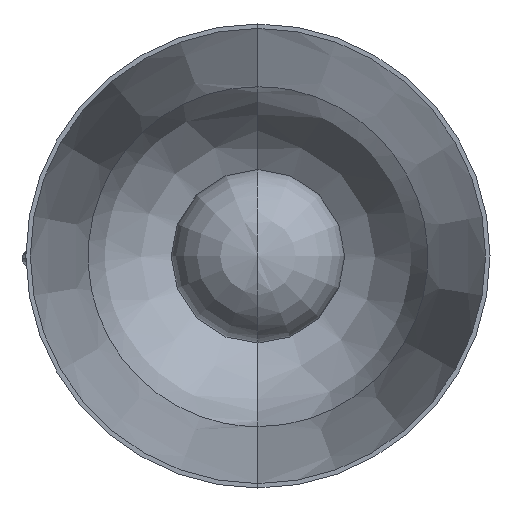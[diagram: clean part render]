
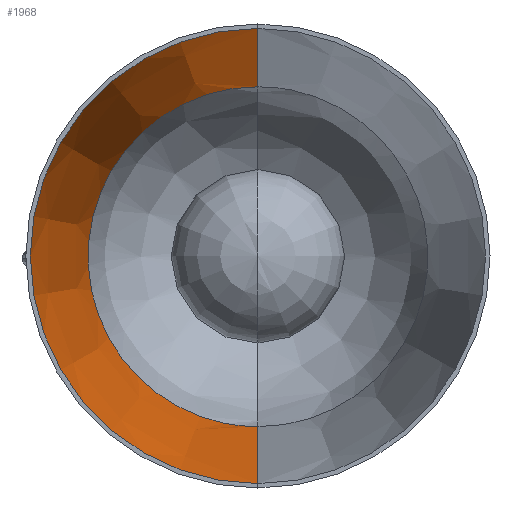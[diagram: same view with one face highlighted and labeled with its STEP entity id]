
A CAD part, top view. The second image highlights one B-rep face of the part: STEP entity #1968.
In plain terms, the highlighted conical face has half-angle 8.468 degrees and reference radius 60.553 mm.
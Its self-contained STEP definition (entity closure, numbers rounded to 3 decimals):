
#97=CONICAL_SURFACE('',#2169,60.553,0.148);
#173=CIRCLE('',#2167,78.477);
#366=FACE_OUTER_BOUND('',#504,.T.);
#504=EDGE_LOOP('',(#1723,#1724,#1725,#1726));
#637=LINE('',#4558,#759);
#638=LINE('',#4570,#760);
#759=VECTOR('',#2680,304.8);
#760=VECTOR('',#2681,304.8);
#817=B_SPLINE_CURVE_WITH_KNOTS('',3,(#4572,#4573,#4574,#4575,#4576,#4577,
#4578,#4579,#4580,#4581),.UNSPECIFIED.,.F.,.F.,(4,1,1,1,1,1,1,4),(0.,0.143,
0.286,0.429,0.571,0.714,
0.857,1.),.UNSPECIFIED.);
#959=VERTEX_POINT('',#4549);
#960=VERTEX_POINT('',#4551);
#961=VERTEX_POINT('',#4557);
#962=VERTEX_POINT('',#4559);
#1217=EDGE_CURVE('',#959,#960,#173,.T.);
#1218=EDGE_CURVE('',#961,#959,#637,.T.);
#1220=EDGE_CURVE('',#960,#962,#638,.T.);
#1221=EDGE_CURVE('',#961,#962,#817,.T.);
#1723=ORIENTED_EDGE('',*,*,#1217,.T.);
#1724=ORIENTED_EDGE('',*,*,#1220,.T.);
#1725=ORIENTED_EDGE('',*,*,#1221,.F.);
#1726=ORIENTED_EDGE('',*,*,#1218,.T.);
#1968=ADVANCED_FACE('',(#366),#97,.F.);
#2167=AXIS2_PLACEMENT_3D('',#4555,#2676,#2677);
#2169=AXIS2_PLACEMENT_3D('',#4571,#2682,#2683);
#2676=DIRECTION('center_axis',(0.,0.,-1.));
#2677=DIRECTION('ref_axis',(-0.588,0.809,0.));
#2680=DIRECTION('',(0.,-0.147,-0.989));
#2681=DIRECTION('',(0.,-0.147,0.989));
#2682=DIRECTION('center_axis',(0.,0.,
-1.));
#2683=DIRECTION('ref_axis',(-0.588,0.809,0.));
#4549=CARTESIAN_POINT('',(0.,-78.477,-182.035));
#4551=CARTESIAN_POINT('',(0.,78.477,-182.035));
#4555=CARTESIAN_POINT('Origin',(0.,0.,
-182.035));
#4557=CARTESIAN_POINT('',(0.,-58.561,-48.27));
#4558=CARTESIAN_POINT('',(0.,-58.561,-48.27));
#4559=CARTESIAN_POINT('',(0.,58.561,-48.27));
#4570=CARTESIAN_POINT('',(0.,78.477,-182.035));
#4571=CARTESIAN_POINT('Origin',(0.,0.,-61.646));
#4572=CARTESIAN_POINT('Ctrl Pts',(0.,-58.561,
-48.27));
#4573=CARTESIAN_POINT('Ctrl Pts',(-8.821,-58.689,-48.27));
#4574=CARTESIAN_POINT('Ctrl Pts',(-26.248,-54.504,-48.27));
#4575=CARTESIAN_POINT('Ctrl Pts',(-47.356,-37.775,-48.27));
#4576=CARTESIAN_POINT('Ctrl Pts',(-59.041,-13.471,-48.27));
#4577=CARTESIAN_POINT('Ctrl Pts',(-59.041,13.471,-48.27));
#4578=CARTESIAN_POINT('Ctrl Pts',(-47.356,37.775,-48.27));
#4579=CARTESIAN_POINT('Ctrl Pts',(-26.248,54.504,-48.27));
#4580=CARTESIAN_POINT('Ctrl Pts',(-8.821,58.689,-48.27));
#4581=CARTESIAN_POINT('Ctrl Pts',(0.,58.561,
-48.27));
